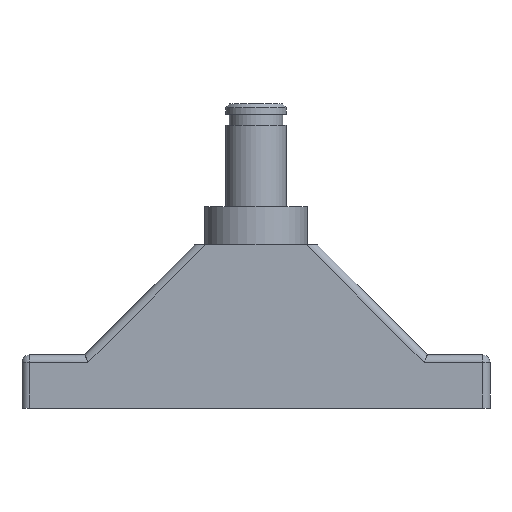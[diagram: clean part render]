
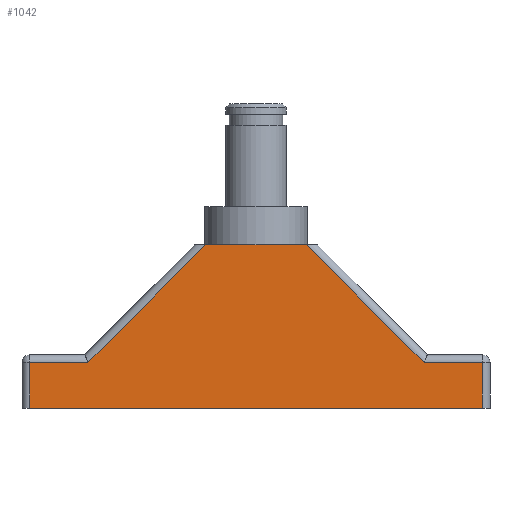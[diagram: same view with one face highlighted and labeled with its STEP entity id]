
A CAD part, front view. The second image highlights one B-rep face of the part: STEP entity #1042.
In plain terms, the highlighted planar face has unit normal (0, -1, 0).
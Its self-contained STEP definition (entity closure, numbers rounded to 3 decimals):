
#4 = VERTEX_POINT ( 'NONE', #880 ) ;
#19 = ORIENTED_EDGE ( 'NONE', *, *, #192, .T. ) ;
#37 = LINE ( 'NONE', #549, #78 ) ;
#39 = ORIENTED_EDGE ( 'NONE', *, *, #1155, .T. ) ;
#57 = DIRECTION ( 'NONE',  ( 0., 0., -1. ) ) ;
#78 = VECTOR ( 'NONE', #290, 1000. ) ;
#113 = ORIENTED_EDGE ( 'NONE', *, *, #989, .T. ) ;
#125 = CARTESIAN_POINT ( 'NONE',  ( -6.586, -14.5, 21.5 ) ) ;
#138 = ORIENTED_EDGE ( 'NONE', *, *, #1187, .T. ) ;
#180 = CARTESIAN_POINT ( 'NONE',  ( 29.75, -14.5, 0. ) ) ;
#185 = EDGE_CURVE ( 'NONE', #1066, #1034, #37, .T. ) ;
#192 = EDGE_CURVE ( 'NONE', #4, #256, #1602, .T. ) ;
#195 = VERTEX_POINT ( 'NONE', #827 ) ;
#256 = VERTEX_POINT ( 'NONE', #698 ) ;
#257 = AXIS2_PLACEMENT_3D ( 'NONE', #882, #474, #1396 ) ;
#290 = DIRECTION ( 'NONE',  ( -0.707, 0., -0.707 ) ) ;
#291 = LINE ( 'NONE', #997, #349 ) ;
#299 = VERTEX_POINT ( 'NONE', #180 ) ;
#329 = DIRECTION ( 'NONE',  ( -1., 0., 0. ) ) ;
#335 = DIRECTION ( 'NONE',  ( 1., 0., 0. ) ) ;
#338 = VECTOR ( 'NONE', #953, 1000. ) ;
#349 = VECTOR ( 'NONE', #335, 1000. ) ;
#474 = DIRECTION ( 'NONE',  ( 0., 1., 0. ) ) ;
#476 = VECTOR ( 'NONE', #57, 1000. ) ;
#478 = CARTESIAN_POINT ( 'NONE',  ( 7.293, -14.5, 20.793 ) ) ;
#506 = LINE ( 'NONE', #1103, #1140 ) ;
#519 = VERTEX_POINT ( 'NONE', #753 ) ;
#549 = CARTESIAN_POINT ( 'NONE',  ( -21.793, -14.5, 6.293 ) ) ;
#589 = CARTESIAN_POINT ( 'NONE',  ( 29.75, -14.5, 7. ) ) ;
#593 = CARTESIAN_POINT ( 'NONE',  ( -22.086, -14.5, 6. ) ) ;
#698 = CARTESIAN_POINT ( 'NONE',  ( -29.75, -14.5, 0. ) ) ;
#736 = LINE ( 'NONE', #478, #840 ) ;
#753 = CARTESIAN_POINT ( 'NONE',  ( 29.75, -14.5, 6. ) ) ;
#770 = CARTESIAN_POINT ( 'NONE',  ( 22.086, -14.5, 6. ) ) ;
#805 = EDGE_CURVE ( 'NONE', #519, #1216, #1585, .T. ) ;
#822 = FACE_OUTER_BOUND ( 'NONE', #1126, .T. ) ;
#827 = CARTESIAN_POINT ( 'NONE',  ( 6.586, -14.5, 21.5 ) ) ;
#840 = VECTOR ( 'NONE', #1539, 1000. ) ;
#880 = CARTESIAN_POINT ( 'NONE',  ( -29.75, -14.5, 6. ) ) ;
#882 = CARTESIAN_POINT ( 'NONE',  ( 30.75, -14.5, 7. ) ) ;
#921 = DIRECTION ( 'NONE',  ( 1., 0., 0. ) ) ;
#948 = CARTESIAN_POINT ( 'NONE',  ( -29.75, -14.5, 7. ) ) ;
#953 = DIRECTION ( 'NONE',  ( -1., 0., 0. ) ) ;
#958 = EDGE_CURVE ( 'NONE', #299, #519, #1159, .T. ) ;
#982 = DIRECTION ( 'NONE',  ( 0., 0., 1. ) ) ;
#989 = EDGE_CURVE ( 'NONE', #256, #299, #291, .T. ) ;
#997 = CARTESIAN_POINT ( 'NONE',  ( 30.75, -14.5, 0. ) ) ;
#1034 = VERTEX_POINT ( 'NONE', #593 ) ;
#1042 = ADVANCED_FACE ( 'NONE', ( #822 ), #1508, .F. ) ;
#1066 = VERTEX_POINT ( 'NONE', #125 ) ;
#1085 = LINE ( 'NONE', #1288, #1618 ) ;
#1103 = CARTESIAN_POINT ( 'NONE',  ( 30.75, -14.5, 6. ) ) ;
#1126 = EDGE_LOOP ( 'NONE', ( #1283, #1298, #138, #1223, #1537, #39, #19, #113 ) ) ;
#1140 = VECTOR ( 'NONE', #329, 1000. ) ;
#1155 = EDGE_CURVE ( 'NONE', #1034, #4, #506, .T. ) ;
#1159 = LINE ( 'NONE', #589, #1575 ) ;
#1187 = EDGE_CURVE ( 'NONE', #1216, #195, #736, .T. ) ;
#1204 = CARTESIAN_POINT ( 'NONE',  ( 30.75, -14.5, 6. ) ) ;
#1216 = VERTEX_POINT ( 'NONE', #770 ) ;
#1223 = ORIENTED_EDGE ( 'NONE', *, *, #1589, .F. ) ;
#1283 = ORIENTED_EDGE ( 'NONE', *, *, #958, .T. ) ;
#1288 = CARTESIAN_POINT ( 'NONE',  ( 8., -14.5, 21.5 ) ) ;
#1298 = ORIENTED_EDGE ( 'NONE', *, *, #805, .T. ) ;
#1396 = DIRECTION ( 'NONE',  ( -1., 0., 0. ) ) ;
#1508 = PLANE ( 'NONE',  #257 ) ;
#1537 = ORIENTED_EDGE ( 'NONE', *, *, #185, .T. ) ;
#1539 = DIRECTION ( 'NONE',  ( -0.707, 0., 0.707 ) ) ;
#1575 = VECTOR ( 'NONE', #982, 1000. ) ;
#1585 = LINE ( 'NONE', #1204, #338 ) ;
#1589 = EDGE_CURVE ( 'NONE', #1066, #195, #1085, .T. ) ;
#1602 = LINE ( 'NONE', #948, #476 ) ;
#1618 = VECTOR ( 'NONE', #921, 1000. ) ;
